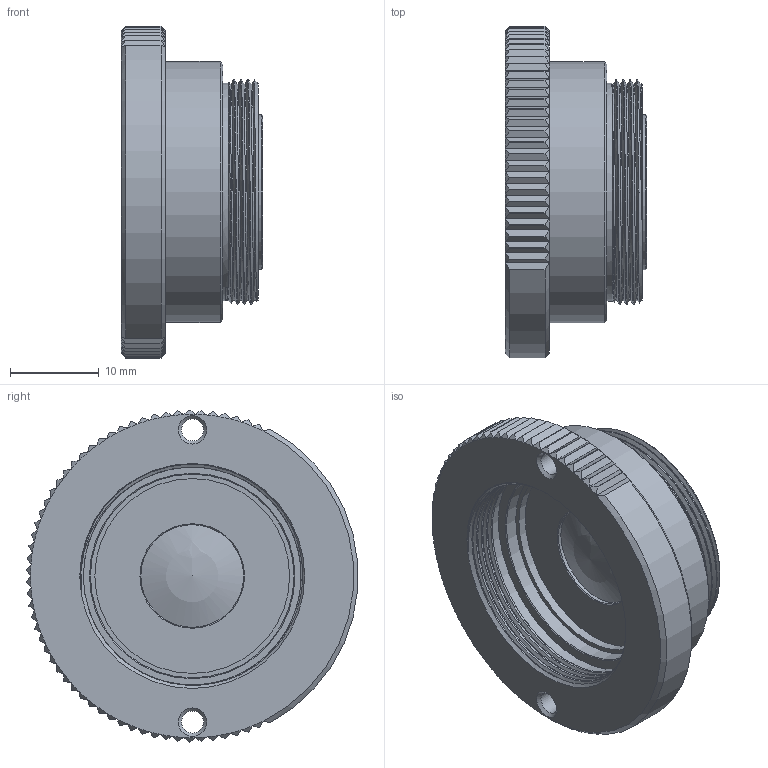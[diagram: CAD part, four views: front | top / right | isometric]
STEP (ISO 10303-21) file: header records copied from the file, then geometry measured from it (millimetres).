
FILE_DESCRIPTION(/* description */ ('Unknown'),/* implementation_level */ '2;1');
FILE_NAME(/* name */ 'EX2C-210226',/* time_stamp */ '2021-02-26T12:46:26+09:00',/* author */ ('Unknown'),/* organization */ ('Unknown'),/* preprocessor_version */ 'ST-DEVELOPER v16.7',/* originating_system */ 'DEX',/* authorisation */ $);
FILE_SCHEMA (('AUTOMOTIVE_DESIGN {1 0 10303 214 3 1 1}'));
Length unit declared in the file: millimetre
Products named in the file (1): EX2C-210226
Bounding box: 16 x 37.42 x 37.5 mm (x, y, z)
Volume: 7933.7 mm3; surface area: 4998 mm2
Topology: 1 solids, 1 shells, 330 faces, 724 edges, 405 vertices
Faces by surface type: plane 127, cone 126, cylinder 72, bspline 4, sphere 1
Full cylindrical faces by diameter (mm): 2.5 x2, 11.6 x1, 13.5 x1, 17.5 x1, 21.9 x1, 22 x1, 23 x1, 24.6 x1, 25.4 x1, 29.5 x1
Entity records: 12423 total; most frequent: CARTESIAN_POINT 3425, ORIENTED_EDGE 1382, DIRECTION 1364, EDGE_CURVE 691, AXIS2_PLACEMENT_3D 593, VERTEX_POINT 395, EDGE_LOOP 364, FACE_BOUND 364
